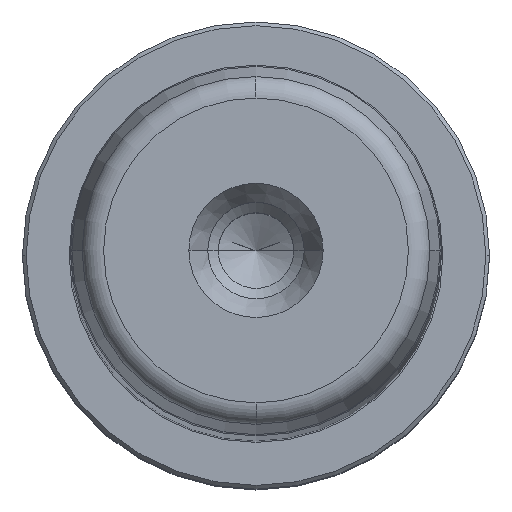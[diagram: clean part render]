
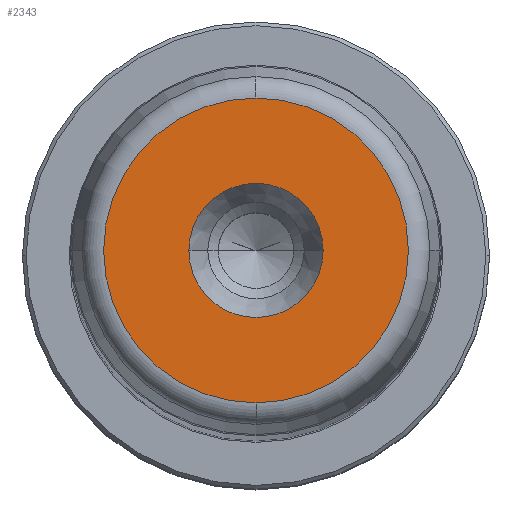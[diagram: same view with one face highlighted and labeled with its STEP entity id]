
A CAD part, top view. The second image highlights one B-rep face of the part: STEP entity #2343.
In plain terms, the highlighted planar face has unit normal (0, 0, 1).
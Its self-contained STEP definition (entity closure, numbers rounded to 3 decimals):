
#431=CARTESIAN_POINT('',(9.05,0.,400.0));
#432=VERTEX_POINT('',#431);
#439=CARTESIAN_POINT('',(-9.05,0.,400.0));
#440=VERTEX_POINT('',#439);
#441=CARTESIAN_POINT('',(0.0,0.,400.0));
#442=DIRECTION('',(0.0,0.0,1.0));
#443=DIRECTION('',(1.0,0.0,0.0));
#444=AXIS2_PLACEMENT_3D('',#441,#442,#443);
#445=CIRCLE('',#444,9.05);
#446=EDGE_CURVE('',#432,#440,#445,.T.);
#463=CARTESIAN_POINT('',(0.0,-20.554,400.0));
#464=VERTEX_POINT('',#463);
#474=CARTESIAN_POINT('',(0.,20.554,400.0));
#475=VERTEX_POINT('',#474);
#476=CARTESIAN_POINT('',(0.0,0.,400.0));
#477=DIRECTION('',(0.0,0.0,1.0));
#478=DIRECTION('',(1.0,0.0,0.0));
#479=AXIS2_PLACEMENT_3D('',#476,#477,#478);
#480=CIRCLE('',#479,20.554);
#481=EDGE_CURVE('',#475,#464,#480,.T.);
#2304=CARTESIAN_POINT('',(20.554,0.,400.0));
#2305=VERTEX_POINT('',#2304);
#2306=CARTESIAN_POINT('',(0.0,0.,400.0));
#2307=DIRECTION('',(0.0,0.0,1.0));
#2308=DIRECTION('',(1.0,0.0,0.0));
#2309=AXIS2_PLACEMENT_3D('',#2306,#2307,#2308);
#2310=CIRCLE('',#2309,20.554);
#2311=EDGE_CURVE('',#2305,#475,#2310,.T.);
#2313=CARTESIAN_POINT('',(0.0,0.,400.0));
#2314=DIRECTION('',(0.0,0.0,1.0));
#2315=DIRECTION('',(1.0,0.0,0.0));
#2316=AXIS2_PLACEMENT_3D('',#2313,#2314,#2315);
#2317=CIRCLE('',#2316,20.554);
#2318=EDGE_CURVE('',#464,#2305,#2317,.T.);
#2323=CARTESIAN_POINT('',(14.802,0.,400.0));
#2324=DIRECTION('',(0.0,0.0,1.0));
#2325=DIRECTION('',(0.0,-1.0,0.0));
#2326=AXIS2_PLACEMENT_3D('',#2323,#2324,#2325);
#2327=PLANE('',#2326);
#2328=ORIENTED_EDGE('',*,*,#2311,.T.);
#2329=ORIENTED_EDGE('',*,*,#481,.T.);
#2330=ORIENTED_EDGE('',*,*,#2318,.T.);
#2331=EDGE_LOOP('',(#2328,#2329,#2330));
#2332=FACE_OUTER_BOUND('',#2331,.T.);
#2333=ORIENTED_EDGE('',*,*,#446,.F.);
#2334=CARTESIAN_POINT('',(0.0,0.,400.0));
#2335=DIRECTION('',(0.0,0.0,1.0));
#2336=DIRECTION('',(1.0,0.0,0.0));
#2337=AXIS2_PLACEMENT_3D('',#2334,#2335,#2336);
#2338=CIRCLE('',#2337,9.05);
#2339=EDGE_CURVE('',#440,#432,#2338,.T.);
#2340=ORIENTED_EDGE('',*,*,#2339,.F.);
#2341=EDGE_LOOP('',(#2333,#2340));
#2342=FACE_BOUND('',#2341,.T.);
#2343=ADVANCED_FACE('',(#2332,#2342),#2327,.T.);
